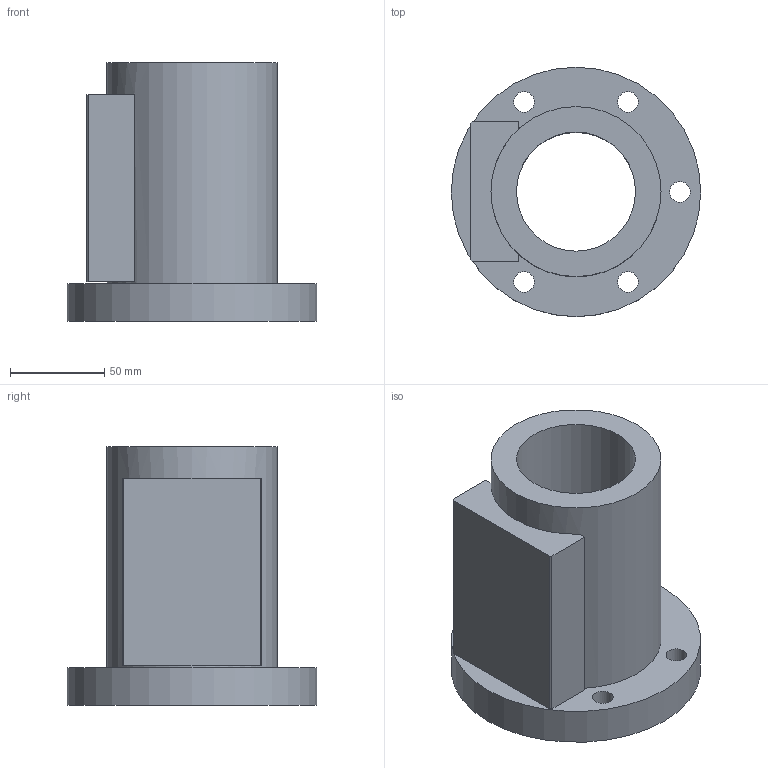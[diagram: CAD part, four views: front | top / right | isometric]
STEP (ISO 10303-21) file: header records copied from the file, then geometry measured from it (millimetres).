
FILE_DESCRIPTION(/* description */ (''),/* implementation_level */ '2;1');
FILE_NAME(/* name */ '63-10B3',/* time_stamp */ '2006-07-31T11:58:10+08:00',/* author */ (''),/* organization */ (''),/* preprocessor_version */ 'ST-DEVELOPER v9',/* originating_system */ 'UGS - NX 4.0',/* authorisation */ '');
FILE_SCHEMA (('CONFIG_CONTROL_DESIGN'));
Length unit declared in the file: millimetre
Products named in the file (1): 63-10B3
Bounding box: 132 x 132 x 137 mm (x, y, z)
Volume: 694465 mm3; surface area: 101371.8 mm2
Topology: 1 solids, 1 shells, 30 faces, 67 edges, 46 vertices
Faces by surface type: plane 17, cylinder 13
Full cylindrical faces by diameter (mm): 11 x5, 17.5 x5, 63 x1, 90 x1, 132 x1
Entity records: 860 total; most frequent: DIRECTION 140, CARTESIAN_POINT 123, ORIENTED_EDGE 100, EDGE_LOOP 62, AXIS2_PLACEMENT_3D 59, EDGE_CURVE 50, FACE_BOUND 45, VERTEX_POINT 42
